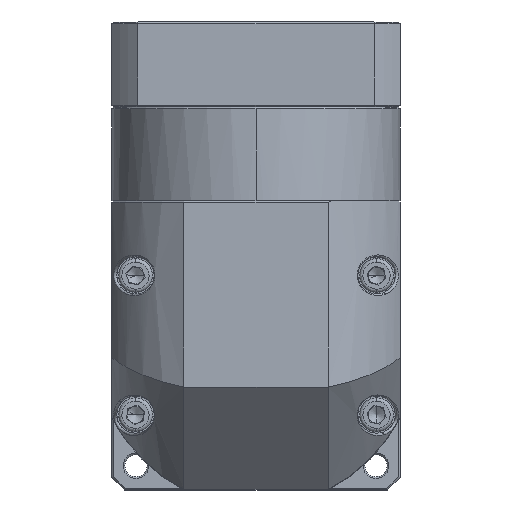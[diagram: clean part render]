
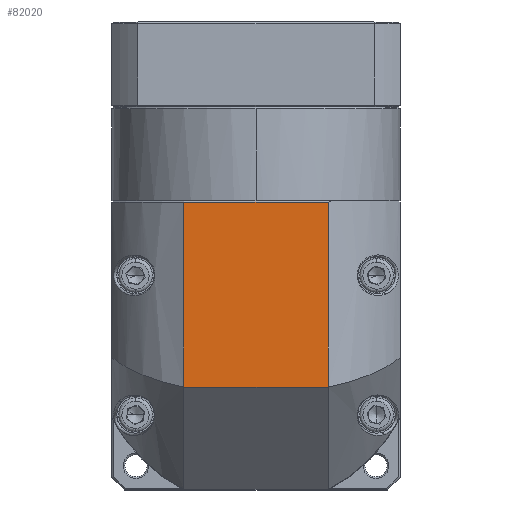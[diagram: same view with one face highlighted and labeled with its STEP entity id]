
A CAD part, top view. The second image highlights one B-rep face of the part: STEP entity #82020.
In plain terms, the highlighted planar face has unit normal (0, 0, 1).
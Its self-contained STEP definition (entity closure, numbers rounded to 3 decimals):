
#820 = DIRECTION ( 'NONE',  ( 0., 1., 0. ) ) ;
#2302 = FACE_OUTER_BOUND ( 'NONE', #73408, .T. ) ;
#5988 = VECTOR ( 'NONE', #10920, 1000. ) ;
#7338 = VECTOR ( 'NONE', #104001, 1000. ) ;
#8828 = CARTESIAN_POINT ( 'NONE',  ( -45.63, 70.953, 64.534 ) ) ;
#10920 = DIRECTION ( 'NONE',  ( -1., 0., 0. ) ) ;
#11401 = EDGE_CURVE ( 'NONE', #22608, #25410, #117332, .T. ) ;
#22608 = VERTEX_POINT ( 'NONE', #114256 ) ;
#23034 = VECTOR ( 'NONE', #121850, 1000. ) ;
#23885 = CARTESIAN_POINT ( 'NONE',  ( -66.843, 16.453, 64.534 ) ) ;
#25410 = VERTEX_POINT ( 'NONE', #51387 ) ;
#26281 = EDGE_CURVE ( 'NONE', #25410, #48572, #52215, .T. ) ;
#27719 = EDGE_CURVE ( 'NONE', #48572, #78757, #46342, .T. ) ;
#30422 = DIRECTION ( 'NONE',  ( 0., 0., 1. ) ) ;
#38165 = VECTOR ( 'NONE', #132058, 1000. ) ;
#40249 = LINE ( 'NONE', #8828, #7338 ) ;
#46342 = LINE ( 'NONE', #132513, #38165 ) ;
#48572 = VERTEX_POINT ( 'NONE', #23885 ) ;
#51387 = CARTESIAN_POINT ( 'NONE',  ( -24.417, 16.453, 64.534 ) ) ;
#52215 = LINE ( 'NONE', #117158, #5988 ) ;
#52296 = AXIS2_PLACEMENT_3D ( 'NONE', #104416, #30422, #820 ) ;
#61936 = ORIENTED_EDGE ( 'NONE', *, *, #27719, .F. ) ;
#72392 = ORIENTED_EDGE ( 'NONE', *, *, #26281, .F. ) ;
#73005 = PLANE ( 'NONE',  #52296 ) ;
#73408 = EDGE_LOOP ( 'NONE', ( #61936, #72392, #91269, #104326 ) ) ;
#77316 = EDGE_CURVE ( 'NONE', #22608, #78757, #40249, .T. ) ;
#78757 = VERTEX_POINT ( 'NONE', #136370 ) ;
#82020 = ADVANCED_FACE ( 'NONE', ( #2302 ), #73005, .T. ) ;
#91269 = ORIENTED_EDGE ( 'NONE', *, *, #11401, .F. ) ;
#104001 = DIRECTION ( 'NONE',  ( -1., 0., 0. ) ) ;
#104326 = ORIENTED_EDGE ( 'NONE', *, *, #77316, .T. ) ;
#104416 = CARTESIAN_POINT ( 'NONE',  ( -45.63, 28.953, 64.534 ) ) ;
#111267 = CARTESIAN_POINT ( 'NONE',  ( -24.417, -29.047, 64.534 ) ) ;
#114256 = CARTESIAN_POINT ( 'NONE',  ( -24.417, 70.953, 64.534 ) ) ;
#117158 = CARTESIAN_POINT ( 'NONE',  ( -45.63, 16.453, 64.534 ) ) ;
#117332 = LINE ( 'NONE', #111267, #23034 ) ;
#121850 = DIRECTION ( 'NONE',  ( 0., -1., 0. ) ) ;
#132058 = DIRECTION ( 'NONE',  ( 0., 1., 0. ) ) ;
#132513 = CARTESIAN_POINT ( 'NONE',  ( -66.843, -29.047, 64.534 ) ) ;
#136370 = CARTESIAN_POINT ( 'NONE',  ( -66.843, 70.953, 64.534 ) ) ;
